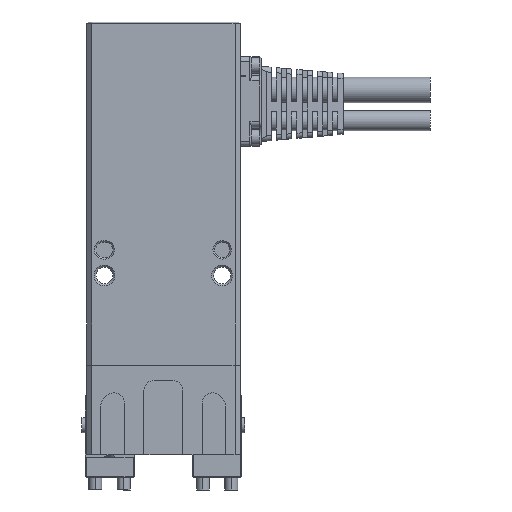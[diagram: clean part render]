
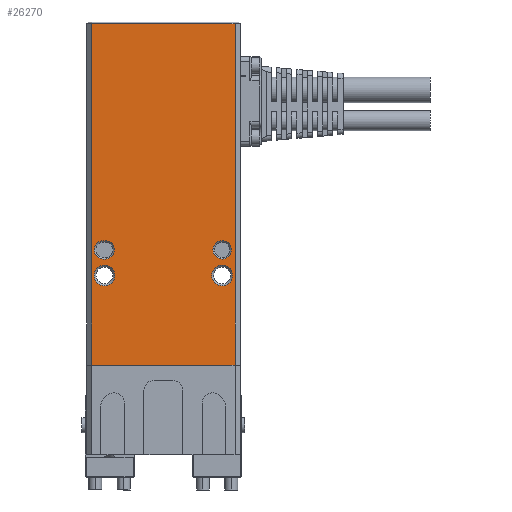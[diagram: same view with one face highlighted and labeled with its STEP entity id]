
A CAD part, front view. The second image highlights one B-rep face of the part: STEP entity #26270.
In plain terms, the highlighted planar face has unit normal (0, -1, 0).
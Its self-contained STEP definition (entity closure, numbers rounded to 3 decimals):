
#136 = VERTEX_POINT ( 'NONE', #15845 ) ;
#1115 = EDGE_CURVE ( 'NONE', #29967, #32092, #33634, .T. ) ;
#1213 = CIRCLE ( 'NONE', #9039, 2.025 ) ;
#1373 = EDGE_CURVE ( 'NONE', #34640, #18519, #9699, .T. ) ;
#1689 = CARTESIAN_POINT ( 'NONE',  ( -14.477, -9.367, 84.5 ) ) ;
#1984 = EDGE_LOOP ( 'NONE', ( #26380, #10635, #36788, #7162 ) ) ;
#2018 = DIRECTION ( 'NONE',  ( 0., 0., -1. ) ) ;
#2517 = CARTESIAN_POINT ( 'NONE',  ( -16.977, -9.367, 133.7 ) ) ;
#2657 = AXIS2_PLACEMENT_3D ( 'NONE', #4161, #3982, #33342 ) ;
#3175 = DIRECTION ( 'NONE',  ( -1., 0., 0. ) ) ;
#3663 = CARTESIAN_POINT ( 'NONE',  ( -14.652, -9.367, 87.7 ) ) ;
#3982 = DIRECTION ( 'NONE',  ( 0., 1., 0. ) ) ;
#3985 = DIRECTION ( 'NONE',  ( 1., 0., 0. ) ) ;
#4161 = CARTESIAN_POINT ( 'NONE',  ( 8.523, -9.367, 84.5 ) ) ;
#4165 = AXIS2_PLACEMENT_3D ( 'NONE', #21287, #29892, #35707 ) ;
#4635 = EDGE_CURVE ( 'NONE', #22814, #136, #33957, .T. ) ;
#5009 = EDGE_CURVE ( 'NONE', #8306, #16578, #26089, .T. ) ;
#5114 = EDGE_CURVE ( 'NONE', #15683, #17537, #32060, .T. ) ;
#5637 = CARTESIAN_POINT ( 'NONE',  ( -14.302, -9.367, 91.3 ) ) ;
#5731 = AXIS2_PLACEMENT_3D ( 'NONE', #21116, #18310, #3175 ) ;
#5791 = LINE ( 'NONE', #8101, #13640 ) ;
#5934 = DIRECTION ( 'NONE',  ( -1., 0., 0. ) ) ;
#6026 = EDGE_CURVE ( 'NONE', #18519, #12132, #5791, .T. ) ;
#6196 = ORIENTED_EDGE ( 'NONE', *, *, #21441, .T. ) ;
#6466 = ORIENTED_EDGE ( 'NONE', *, *, #4635, .T. ) ;
#6638 = CARTESIAN_POINT ( 'NONE',  ( 12.023, -9.367, 67. ) ) ;
#6887 = DIRECTION ( 'NONE',  ( -1., 0., 0. ) ) ;
#6889 = VERTEX_POINT ( 'NONE', #28605 ) ;
#7162 = ORIENTED_EDGE ( 'NONE', *, *, #1373, .T. ) ;
#8101 = CARTESIAN_POINT ( 'NONE',  ( 11.023, -9.367, 134. ) ) ;
#8154 = EDGE_LOOP ( 'NONE', ( #19801, #6196 ) ) ;
#8277 = EDGE_LOOP ( 'NONE', ( #21471, #28093 ) ) ;
#8306 = VERTEX_POINT ( 'NONE', #19768 ) ;
#8610 = AXIS2_PLACEMENT_3D ( 'NONE', #28474, #9313, #17440 ) ;
#9039 = AXIS2_PLACEMENT_3D ( 'NONE', #1689, #32716, #30978 ) ;
#9313 = DIRECTION ( 'NONE',  ( 0., 1., 0. ) ) ;
#9699 = LINE ( 'NONE', #6638, #20902 ) ;
#10635 = ORIENTED_EDGE ( 'NONE', *, *, #17068, .T. ) ;
#10901 = LINE ( 'NONE', #30784, #32770 ) ;
#11305 = AXIS2_PLACEMENT_3D ( 'NONE', #27252, #24458, #35907 ) ;
#11534 = CARTESIAN_POINT ( 'NONE',  ( 11.023, -9.367, 133.7 ) ) ;
#11999 = CARTESIAN_POINT ( 'NONE',  ( 8.523, -9.367, 86.525 ) ) ;
#12132 = VERTEX_POINT ( 'NONE', #11534 ) ;
#12418 = LINE ( 'NONE', #21245, #28996 ) ;
#12656 = DIRECTION ( 'NONE',  ( 1., 0., 0. ) ) ;
#12687 = EDGE_CURVE ( 'NONE', #17537, #15683, #13649, .T. ) ;
#12833 = CARTESIAN_POINT ( 'NONE',  ( 12.023, -9.367, 91.3 ) ) ;
#13300 = ORIENTED_EDGE ( 'NONE', *, *, #14803, .T. ) ;
#13604 = EDGE_LOOP ( 'NONE', ( #30106, #25084 ) ) ;
#13640 = VECTOR ( 'NONE', #23171, 1000. ) ;
#13649 = CIRCLE ( 'NONE', #5731, 1.8 ) ;
#14803 = EDGE_CURVE ( 'NONE', #136, #34205, #24478, .T. ) ;
#15683 = VERTEX_POINT ( 'NONE', #25273 ) ;
#15845 = CARTESIAN_POINT ( 'NONE',  ( -14.652, -9.367, 91.3 ) ) ;
#16374 = FACE_BOUND ( 'NONE', #21084, .T. ) ;
#16578 = VERTEX_POINT ( 'NONE', #11999 ) ;
#16879 = ORIENTED_EDGE ( 'NONE', *, *, #33916, .T. ) ;
#17039 = DIRECTION ( 'NONE',  ( -1., 0., 0. ) ) ;
#17068 = EDGE_CURVE ( 'NONE', #12132, #21594, #35306, .T. ) ;
#17440 = DIRECTION ( 'NONE',  ( -1., 0., 0. ) ) ;
#17537 = VERTEX_POINT ( 'NONE', #37128 ) ;
#18310 = DIRECTION ( 'NONE',  ( 0., 1., 0. ) ) ;
#18519 = VERTEX_POINT ( 'NONE', #33860 ) ;
#18726 = EDGE_CURVE ( 'NONE', #16578, #8306, #27487, .T. ) ;
#19768 = CARTESIAN_POINT ( 'NONE',  ( 8.523, -9.367, 82.475 ) ) ;
#19801 = ORIENTED_EDGE ( 'NONE', *, *, #1115, .T. ) ;
#20638 = VECTOR ( 'NONE', #30038, 1000. ) ;
#20902 = VECTOR ( 'NONE', #3985, 1000. ) ;
#21084 = EDGE_LOOP ( 'NONE', ( #13300, #16879, #27914, #6466 ) ) ;
#21116 = CARTESIAN_POINT ( 'NONE',  ( 8.523, -9.367, 89.5 ) ) ;
#21245 = CARTESIAN_POINT ( 'NONE',  ( 12.023, -9.367, 87.7 ) ) ;
#21287 = CARTESIAN_POINT ( 'NONE',  ( -14.477, -9.367, 84.5 ) ) ;
#21441 = EDGE_CURVE ( 'NONE', #32092, #29967, #1213, .T. ) ;
#21471 = ORIENTED_EDGE ( 'NONE', *, *, #5009, .T. ) ;
#21594 = VERTEX_POINT ( 'NONE', #2517 ) ;
#21917 = AXIS2_PLACEMENT_3D ( 'NONE', #28099, #30721, #17039 ) ;
#22165 = FACE_BOUND ( 'NONE', #8277, .T. ) ;
#22814 = VERTEX_POINT ( 'NONE', #3663 ) ;
#22887 = DIRECTION ( 'NONE',  ( -1., 0., 0. ) ) ;
#23171 = DIRECTION ( 'NONE',  ( 0., 0., 1. ) ) ;
#24101 = CARTESIAN_POINT ( 'NONE',  ( 12.023, -9.367, 134. ) ) ;
#24458 = DIRECTION ( 'NONE',  ( 0., 1., 0. ) ) ;
#24478 = LINE ( 'NONE', #12833, #24776 ) ;
#24776 = VECTOR ( 'NONE', #12656, 1000. ) ;
#24950 = FACE_BOUND ( 'NONE', #8154, .T. ) ;
#25084 = ORIENTED_EDGE ( 'NONE', *, *, #12687, .T. ) ;
#25273 = CARTESIAN_POINT ( 'NONE',  ( 8.523, -9.367, 87.7 ) ) ;
#26089 = CIRCLE ( 'NONE', #2657, 2.025 ) ;
#26147 = AXIS2_PLACEMENT_3D ( 'NONE', #29641, #29461, #6887 ) ;
#26270 = ADVANCED_FACE ( 'NONE', ( #16374, #27762, #24950, #22165, #30755 ), #33749, .F. ) ;
#26380 = ORIENTED_EDGE ( 'NONE', *, *, #6026, .T. ) ;
#26514 = DIRECTION ( 'NONE',  ( 0., 1., 0. ) ) ;
#27252 = CARTESIAN_POINT ( 'NONE',  ( 8.523, -9.367, 84.5 ) ) ;
#27322 = CARTESIAN_POINT ( 'NONE',  ( -14.477, -9.367, 86.525 ) ) ;
#27487 = CIRCLE ( 'NONE', #11305, 2.025 ) ;
#27762 = FACE_BOUND ( 'NONE', #13604, .T. ) ;
#27914 = ORIENTED_EDGE ( 'NONE', *, *, #35554, .T. ) ;
#28093 = ORIENTED_EDGE ( 'NONE', *, *, #18726, .T. ) ;
#28099 = CARTESIAN_POINT ( 'NONE',  ( 8.523, -9.367, 89.5 ) ) ;
#28474 = CARTESIAN_POINT ( 'NONE',  ( -14.302, -9.367, 89.5 ) ) ;
#28594 = CARTESIAN_POINT ( 'NONE',  ( -14.477, -9.367, 82.475 ) ) ;
#28605 = CARTESIAN_POINT ( 'NONE',  ( -14.302, -9.367, 87.7 ) ) ;
#28996 = VECTOR ( 'NONE', #5934, 1000. ) ;
#29131 = EDGE_CURVE ( 'NONE', #21594, #34640, #10901, .T. ) ;
#29384 = CARTESIAN_POINT ( 'NONE',  ( -16.977, -9.367, 67. ) ) ;
#29461 = DIRECTION ( 'NONE',  ( 0., 1., 0. ) ) ;
#29641 = CARTESIAN_POINT ( 'NONE',  ( -14.652, -9.367, 89.5 ) ) ;
#29892 = DIRECTION ( 'NONE',  ( 0., 1., 0. ) ) ;
#29967 = VERTEX_POINT ( 'NONE', #28594 ) ;
#30038 = DIRECTION ( 'NONE',  ( -1., 0., 0. ) ) ;
#30106 = ORIENTED_EDGE ( 'NONE', *, *, #5114, .T. ) ;
#30721 = DIRECTION ( 'NONE',  ( 0., 1., 0. ) ) ;
#30755 = FACE_OUTER_BOUND ( 'NONE', #1984, .T. ) ;
#30784 = CARTESIAN_POINT ( 'NONE',  ( -16.977, -9.367, 134. ) ) ;
#30978 = DIRECTION ( 'NONE',  ( 0., 0., 1. ) ) ;
#32060 = CIRCLE ( 'NONE', #21917, 1.8 ) ;
#32092 = VERTEX_POINT ( 'NONE', #27322 ) ;
#32716 = DIRECTION ( 'NONE',  ( 0., 1., 0. ) ) ;
#32770 = VECTOR ( 'NONE', #2018, 1000. ) ;
#33342 = DIRECTION ( 'NONE',  ( 0., 0., 1. ) ) ;
#33634 = CIRCLE ( 'NONE', #4165, 2.025 ) ;
#33749 = PLANE ( 'NONE',  #36140 ) ;
#33860 = CARTESIAN_POINT ( 'NONE',  ( 11.023, -9.367, 67. ) ) ;
#33916 = EDGE_CURVE ( 'NONE', #34205, #6889, #36836, .T. ) ;
#33957 = CIRCLE ( 'NONE', #26147, 1.8 ) ;
#34205 = VERTEX_POINT ( 'NONE', #5637 ) ;
#34640 = VERTEX_POINT ( 'NONE', #29384 ) ;
#35306 = LINE ( 'NONE', #35483, #20638 ) ;
#35483 = CARTESIAN_POINT ( 'NONE',  ( -16.977, -9.367, 133.7 ) ) ;
#35554 = EDGE_CURVE ( 'NONE', #6889, #22814, #12418, .T. ) ;
#35707 = DIRECTION ( 'NONE',  ( 0., 0., 1. ) ) ;
#35907 = DIRECTION ( 'NONE',  ( 0., 0., 1. ) ) ;
#36140 = AXIS2_PLACEMENT_3D ( 'NONE', #24101, #26514, #22887 ) ;
#36788 = ORIENTED_EDGE ( 'NONE', *, *, #29131, .T. ) ;
#36836 = CIRCLE ( 'NONE', #8610, 1.8 ) ;
#37128 = CARTESIAN_POINT ( 'NONE',  ( 8.523, -9.367, 91.3 ) ) ;
